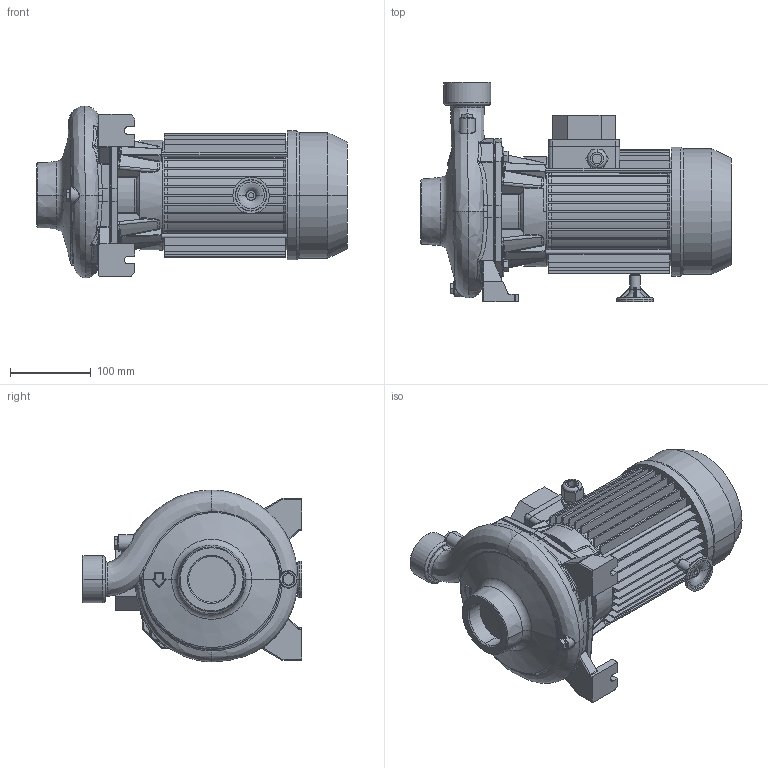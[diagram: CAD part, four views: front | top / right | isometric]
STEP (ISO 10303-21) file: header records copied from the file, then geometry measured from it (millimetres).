
FILE_DESCRIPTION((''),'2;1');
FILE_NAME('CMB_300T_IE3_ASM','2017-07-27T',('rosa'),('"Ebara Pumps Europe +39.444.706811"'),'PRO/ENGINEER BY PARAMETRIC TECHNOLOGY CORPORATION, 2012130','PRO/ENGINEER BY PARAMETRIC TECHNOLOGY CORPORATION, 2012130','');
FILE_SCHEMA(('AUTOMOTIVE_DESIGN { 1 0 10303 214 1 1 1 1 }'));
Length unit declared in the file: millimetre
Products named in the file (5): MEC_80X130_IE3; 80536; 20519; 72002; CMB_300T_IE3_ASM
Assembly tree (4 placements, depth 2):
  CMB_300T_IE3_ASM
    MEC_80X130_IE3
    80536
    20519
    72002
Bounding box: 384 x 271.5 x 212.47 mm (x, y, z)
Volume: 5116838.7 mm3; surface area: 604520.4 mm2
Topology: 4 solids, 10 shells, 1375 faces, 3280 edges, 1952 vertices
Faces by surface type: plane 422, bspline 399, cylinder 322, cone 111, torus 97, sphere 23, extrusion 1
Entity records: 69975 total; most frequent: CARTESIAN_POINT 31370, ORIENTED_EDGE 6528, DIRECTION 5485, EDGE_CURVE 3272, PRESENTATION_STYLE_ASSIGNMENT 2451, STYLED_ITEM 2451, CURVE_STYLE 2295, AXIS2_PLACEMENT_3D 2166
